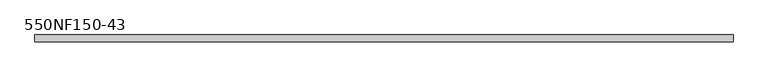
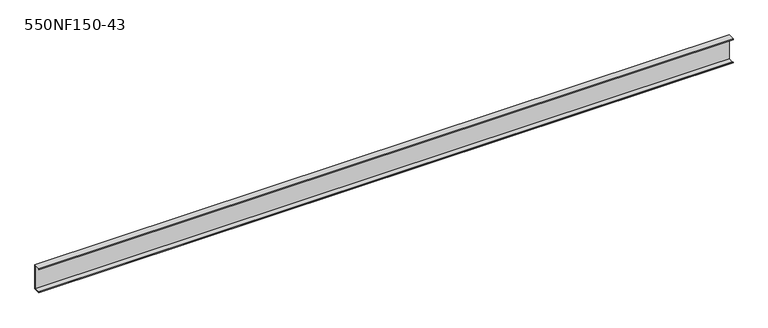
"""IFC4 building model written with IfcOpenShell, lengths in millimetres: beam geometry, BIMSF-SSMA-S : 550NF150-43."""

import ifcopenshell
import ifcopenshell.guid

model = None  # the IFC model being written
_history = None  # IfcOwnerHistory: only IFC2X3 demands one
_inside = {}  # id of a spatial element -> (the spatial element, [elements in it])
_under = {}  # id of a project, library or spatial element -> (it, [spatial elements below it])
_declared = {}  # id of a project -> (the project, [libraries it declares])
_typed = {}  # id of a type object -> (the type object, [elements of that type])
_made_of = {}  # id of a material, layer set ... -> (it, [elements and type objects made of it])


def new_model(schema):
    """Start an empty IFC model of exactly this schema.

    Asked for "IFC4X3", IfcOpenShell would pick the latest addendum, in which some entities
    have other attributes; the version numbers below select the first issue.
    IFC2X3 requires an IfcOwnerHistory on every rooted entity: one is made here for all.
    """
    global model, _history
    if schema == "IFC4X3":
        model = ifcopenshell.file(schema_version=(4, 3, 0, 0))
    else:
        model = ifcopenshell.file(schema=schema)
    _inside.clear()
    _under.clear()
    _declared.clear()
    _typed.clear()
    _made_of.clear()
    _history = None
    if model.schema == "IFC2X3":
        org = make("IfcOrganization", Name="unknown")
        user = make(
            "IfcPersonAndOrganization",
            ThePerson=make("IfcPerson", FamilyName="unknown"),
            TheOrganization=org,
        )
        app = make(
            "IfcApplication",
            ApplicationDeveloper=org,
            Version="unknown",
            ApplicationFullName="unknown",
            ApplicationIdentifier="unknown",
        )
        _history = make(
            "IfcOwnerHistory",
            OwningUser=user,
            OwningApplication=app,
            ChangeAction="ADDED",
            CreationDate=0,
        )
    return model


def make(cls, **values):
    """One entity of the class cls with the attributes given. An attribute that is None is left unset."""
    return model.create_entity(
        cls, **{name: value for name, value in values.items() if value is not None}
    )


def rooted(cls, **values):
    """An entity with a GlobalId (a new one), such as an element, a storey or a relation."""
    return make(cls, GlobalId=ifcopenshell.guid.new(), OwnerHistory=_history, **values)


def si_unit(unit_type, name, prefix=None):
    """IfcSIUnit, for example si_unit("LENGTHUNIT", "METRE", prefix="MILLI")."""
    return make("IfcSIUnit", UnitType=unit_type, Prefix=prefix, Name=name)


def assignment(units):
    """IfcUnitAssignment: the units of a project."""
    return None if units is None else make("IfcUnitAssignment", Units=units)


def point(xyz):
    """IfcCartesianPoint."""
    return None if xyz is None else make("IfcCartesianPoint", Coordinates=xyz)


def direction(xyz):
    """IfcDirection."""
    return None if xyz is None else make("IfcDirection", DirectionRatios=xyz)


def frame(location, z_axis=None, x_axis=None):
    """IfcAxis2Placement3D, a coordinate frame: its origin and axes. An axis left out is left unset."""
    return make(
        "IfcAxis2Placement3D",
        Location=point(location),
        Axis=direction(z_axis),
        RefDirection=direction(x_axis),
    )


def origin():
    """The frame at (0, 0, 0) with its axes left unset."""
    return frame((0.0, 0.0, 0.0))


def place(relative_to, where):
    """IfcLocalPlacement: puts the frame where relative to a parent placement (None: the world)."""
    return make(
        "IfcLocalPlacement", PlacementRelTo=relative_to, RelativePlacement=where
    )


def context(
    kind, dimensions, precision=None, world=None, true_north=None, identifier=None
):
    """IfcGeometricRepresentationContext, for example the 3D "Model" context."""
    return make(
        "IfcGeometricRepresentationContext",
        ContextIdentifier=identifier,
        ContextType=kind,
        CoordinateSpaceDimension=dimensions,
        Precision=precision,
        WorldCoordinateSystem=world,
        TrueNorth=true_north,
    )


def project(units=None, contexts=None):
    """IfcProject with its units and contexts."""
    return rooted(
        "IfcProject",
        Name="project",
        RepresentationContexts=contexts,
        UnitsInContext=assignment(units),
    )


def spatial(cls, under=None, at=None, **own):
    """A site, building, storey or space (cls), placed at a placement, below another one or the project."""
    s = rooted(cls, ObjectPlacement=at, **own)
    if under is not None:
        _under.setdefault(under.id(), (under, []))[1].append(s)
    return s


def polyline(points):
    """IfcPolyline through the points."""
    return make("IfcPolyline", Points=[point(p) for p in points])


def outline(outer, holes=None, kind="AREA"):
    """IfcArbitraryClosedProfileDef: a profile drawn as a closed curve; with holes, ...WithVoids."""
    if holes is None:
        return make("IfcArbitraryClosedProfileDef", ProfileType=kind, OuterCurve=outer)
    return make(
        "IfcArbitraryProfileDefWithVoids",
        ProfileType=kind,
        OuterCurve=outer,
        InnerCurves=holes,
    )


def extrude(swept, where, along, depth):
    """IfcExtrudedAreaSolid: the profile swept, set in the frame where, extruded along a direction by depth."""
    return make(
        "IfcExtrudedAreaSolid",
        SweptArea=swept,
        Position=where,
        ExtrudedDirection=direction(along),
        Depth=depth,
    )


def shape(context_of_items, identifier, shape_type, items):
    """IfcShapeRepresentation: the items that make up one representation, for example the "Body"."""
    return make(
        "IfcShapeRepresentation",
        ContextOfItems=context_of_items,
        RepresentationIdentifier=identifier,
        RepresentationType=shape_type,
        Items=items,
    )


def source(mapping_origin, context_of_items, identifier, shape_type, items):
    """IfcRepresentationMap: a shape defined once, which mapped items show again and again."""
    return make(
        "IfcRepresentationMap",
        MappingOrigin=mapping_origin,
        MappedRepresentation=shape(context_of_items, identifier, shape_type, items),
    )


def transform(
    local_origin,
    x_axis=None,
    y_axis=None,
    z_axis=None,
    scale=None,
    scale2=None,
    scale3=None,
    uniform=True,
):
    """IfcCartesianTransformationOperator3D, or its non-uniform kind. x_axis, y_axis, z_axis: its Axis1, 2, 3."""
    if uniform:
        return make(
            "IfcCartesianTransformationOperator3D",
            Axis1=direction(x_axis),
            Axis2=direction(y_axis),
            LocalOrigin=point(local_origin),
            Scale=scale,
            Axis3=direction(z_axis),
        )
    return make(
        "IfcCartesianTransformationOperator3DnonUniform",
        Axis1=direction(x_axis),
        Axis2=direction(y_axis),
        LocalOrigin=point(local_origin),
        Scale=scale,
        Axis3=direction(z_axis),
        Scale2=scale2,
        Scale3=scale3,
    )


def mapped(mapping_source, mapping_target):
    """IfcMappedItem: shows the shape of a source again, moved by a transform."""
    return make(
        "IfcMappedItem", MappingSource=mapping_source, MappingTarget=mapping_target
    )


def made_of(thing, what):
    """Note that an element or type object is made of a material, layer set ...; save() writes the relation."""
    if what is not None:
        _made_of.setdefault(what.id(), (what, []))[1].append(thing)
    return thing


def element(
    cls,
    number,
    at=None,
    inside=None,
    cuts=None,
    type_object=None,
    material=None,
    context=None,
    identifier="Body",
    shape_type=None,
    held_by="IfcProductDefinitionShape",
    body=None,
    shapes=None,
    **own,
):
    """One element of the class cls, such as IfcWall. Its Tag is "e" and its number.

    at: its placement. inside: the storey or other place that contains it. cuts: it is an
    opening in that element (IfcRelVoidsElement). A single representation is given by context,
    identifier, shape_type and body (its items); several are given by shapes. held_by: the class
    of the entity that holds the representations. save() writes the other relations.
    """
    e = rooted(cls, Tag="e%d" % number, ObjectPlacement=at, **own)
    if body is not None:
        shapes = [shape(context, identifier, shape_type, body)]
    if shapes is not None:
        e.Representation = make(held_by, Representations=shapes)
    if inside is not None:
        _inside.setdefault(inside.id(), (inside, []))[1].append(e)
    if cuts is not None:
        rooted(
            "IfcRelVoidsElement", RelatingBuildingElement=cuts, RelatedOpeningElement=e
        )
    if type_object is not None:
        _typed.setdefault(type_object.id(), (type_object, []))[1].append(e)
    return made_of(e, material)


def aggregate(whole, parts):
    """IfcRelAggregates: a whole, such as a stair, and the parts it consists of."""
    return rooted("IfcRelAggregates", RelatingObject=whole, RelatedObjects=parts)


def save(model, path):
    """Write the relations noted so far, then the file.

    IfcRelAggregates (storeys below a building ...), IfcRelContainedInSpatialStructure (elements
    in a storey), IfcRelDefinesByType, IfcRelAssociatesMaterial and IfcRelDeclares: one each for
    every whole, place, type object, material and project.
    """
    for whole, parts in _under.values():
        aggregate(whole, parts)
    for where, things in _inside.values():
        rooted(
            "IfcRelContainedInSpatialStructure",
            RelatedElements=things,
            RelatingStructure=where,
        )
    for kind, things in _typed.values():
        rooted("IfcRelDefinesByType", RelatedObjects=things, RelatingType=kind)
    for what, things in _made_of.values():
        rooted("IfcRelAssociatesMaterial", RelatedObjects=things, RelatingMaterial=what)
    for by, libraries in _declared.values():
        rooted("IfcRelDeclares", RelatingContext=by, RelatedDefinitions=libraries)
    model.write(path)


def beam_550nf150_43_71bb0163(model_context):
    return source(origin(), model_context, "Body", "SweptSolid", [
        extrude(outline(polyline([(19.05, 69.85), (19.05, -69.85), (-19.05, -69.85), (-19.05, -65.0748), (-17.9003158, -65.0748), (-17.9003158, -68.7003158), (17.9003158, -68.7003158), (17.9003158, 68.7003158), (-17.9003158, 68.7003158), (-17.9003158, 65.0748), (-19.05, 65.0748), (-19.05, 69.85), (19.05, 69.85)])), frame((-1911.35, 0.0, 0.0), z_axis=(1.0, 0.0, 0.0), x_axis=(0.0, 1.0, 0.0)), (0.0, 0.0, 1.0), 3822.7),
    ])


if __name__ == "__main__":
    model = new_model("IFC4")
    model_context = context("Model", 3, world=origin())
    ifc_project = project(units=[si_unit("LENGTHUNIT", "METRE", prefix="MILLI")], contexts=[model_context])
    site = spatial("IfcSite", under=ifc_project)
    building = spatial("IfcBuilding", under=site)
    placement = place(None, origin())
    beam_550nf150_43_shape = beam_550nf150_43_71bb0163(model_context)
    element("IfcBeam", 1, ObjectType="BIMSF-SSMA-S : 550NF150-43", at=placement, inside=building, context=model_context, shape_type="MappedRepresentation", body=[
        mapped(beam_550nf150_43_shape, transform((0.0, 0.0, 0.0), x_axis=(1.0, 0.0, 0.0), y_axis=(0.0, 1.0, 0.0), z_axis=(0.0, 0.0, 1.0))),
    ])
    save(model, "model.ifc")
